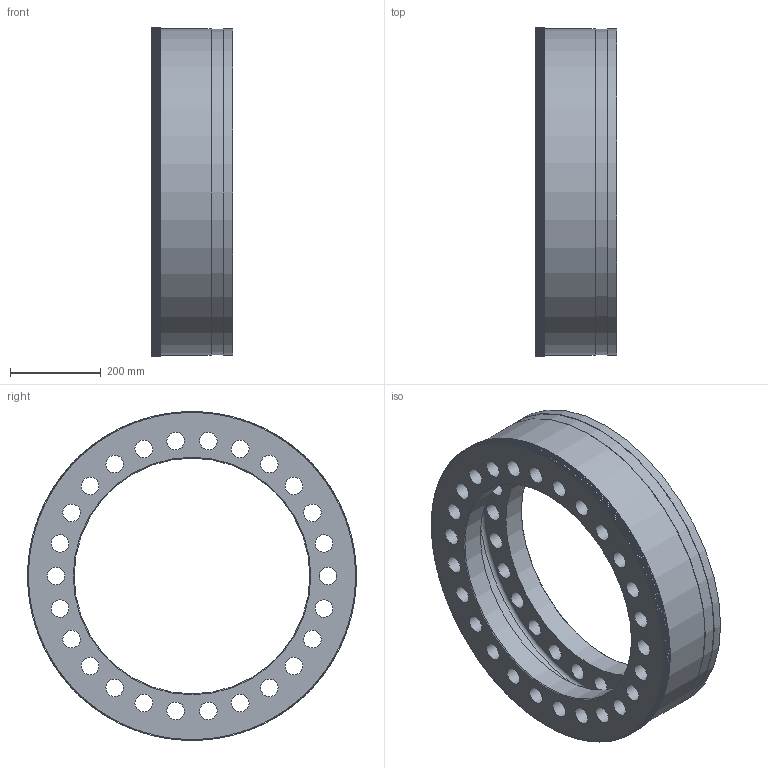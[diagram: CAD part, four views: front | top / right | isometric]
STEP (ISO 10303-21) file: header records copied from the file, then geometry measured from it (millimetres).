
FILE_DESCRIPTION(/* description */ (''),/* implementation_level */ '2;1');
FILE_NAME(/* name */ 'F:\Sensorik\Standard_Messflansche\21_500000_Nm\600000_kNm\kunde\Flansch_600kNm_freigabemodell.stp',/* time_stamp */ '2019-11-21T10:23:04+01:00',/* author */ ('dschaefer'),/* organization */ (''),/* preprocessor_version */ 'ST-DEVELOPER v16.5',/* originating_system */ 'Autodesk Inventor 2017',/* authorisation */ '');
FILE_SCHEMA (('AUTOMOTIVE_DESIGN { 1 0 10303 214 3 1 1 }'));
Length unit declared in the file: millimetre
Products named in the file (1): Flansch_1-teilig
Bounding box: 180 x 725 x 725 mm (x, y, z)
Volume: 20820482.2 mm3; surface area: 1640974.7 mm2
Topology: 1 solids, 1 shells, 2234 faces, 6700 edges, 4474 vertices
Faces by surface type: plane 1632, cylinder 598, cone 2, torus 2
Full cylindrical faces by diameter (mm): 38.752 x52, 520 x2, 670 x1, 718 x1, 720 x2
Entity records: 74638 total; most frequent: CARTESIAN_POINT 13295, ORIENTED_EDGE 13224, DIRECTION 12282, EDGE_CURVE 6612, LINE 5412, VECTOR 5412, VERTEX_POINT 4448, AXIS2_PLACEMENT_3D 3435
